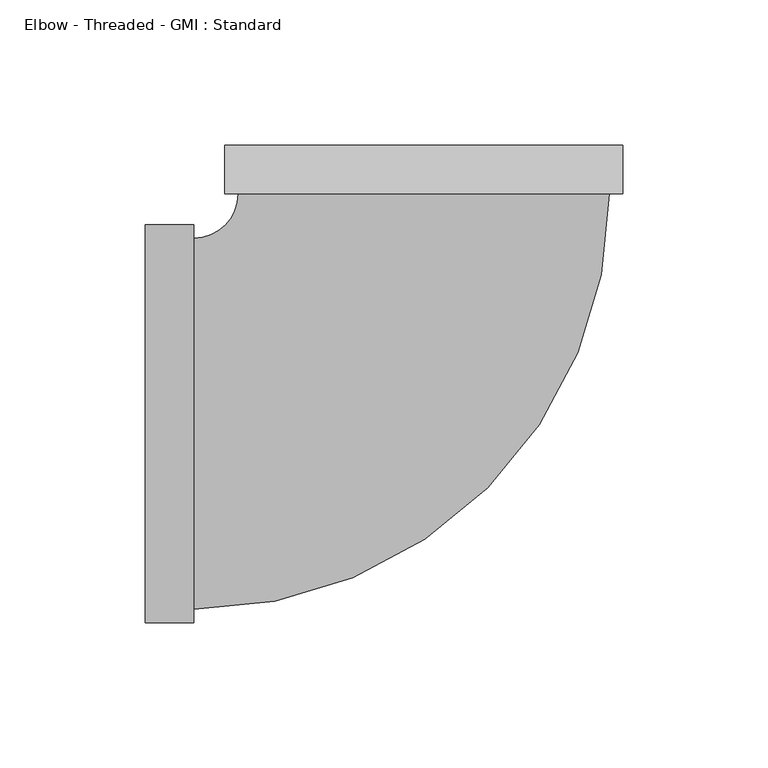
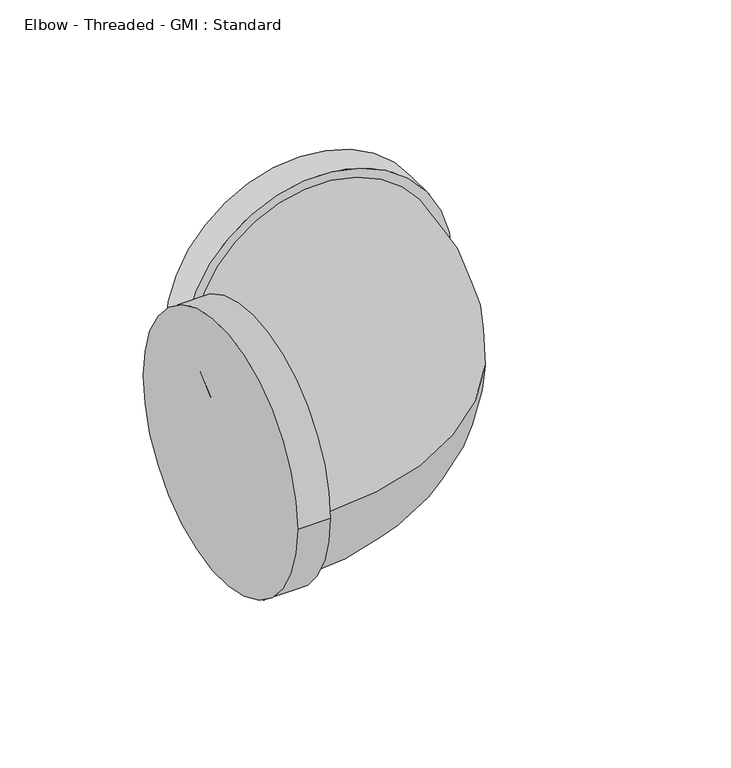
"""IFC4 building model written with IfcOpenShell, lengths in millimetres: pipe fitting geometry, Elbow - Threaded - GMI : Standard."""

from ifc_helpers import new_model, si_unit, point, frame, origin, place, context, project, spatial, circle_curve, ellipse_curve, trimmed, source, transform, mapped, element, save
from ifc_brep_helpers import plane_surface, cylinder_surface, revolved_surface, advanced_brep


def elbow_threaded_gmi_standard_bd845945(model_context):
    return source(origin(), model_context, "Body", "AdvancedBrep", [
        advanced_brep(
        [(-96.0, -68.6, 0.0), (-96.0, 68.6, 0.0), (-79.2, -68.6, 0.0), (-79.2, 68.6, 0.0), (-79.2, -63.93, 0.0), (-79.2, 63.93, 0.0), (68.6, 79.2, 0.0), (-68.6, 79.2, 0.0), (-63.93, 79.2, 0.0), (63.93, 79.2, 0.0), (68.6, 96.0, 0.0), (-68.6, 96.0, 0.0)],
        [
            (0, 1, circle_curve(frame((-96.0, 0.0, 0.0), z_axis=(-1.0, 0.0, 0.0), x_axis=(0.0, 1.0, 0.0)), 68.6)),
            (1, 0, circle_curve(frame((-96.0, 0.0, 0.0), z_axis=(-1.0, 0.0, 0.0), x_axis=(0.0, 1.0, 0.0)), 68.6)),
            (2, 3, circle_curve(frame((-79.2, 0.0, 0.0), z_axis=(1.0, 0.0, 0.0), x_axis=(0.0, 1.0, 0.0)), 68.6)),
            (3, 2, circle_curve(frame((-79.2, 0.0, 0.0), z_axis=(1.0, 0.0, 0.0), x_axis=(0.0, 1.0, 0.0)), 68.6)),
            (4, 5, circle_curve(frame((-79.2, 0.0, 0.0), z_axis=(-1.0, 0.0, 0.0), x_axis=(0.0, 1.0, 0.0)), 63.93)),
            (5, 4, circle_curve(frame((-79.2, 0.0, 0.0), z_axis=(-1.0, 0.0, 0.0), x_axis=(0.0, 1.0, 0.0)), 63.93)),
            (0, 2),
            (3, 1),
            (6, 7, circle_curve(frame((0.0, 79.2, 0.0), z_axis=(0.0, -1.0, 0.0), x_axis=(-1.0, 0.0, 0.0)), 68.6)),
            (7, 6, circle_curve(frame((0.0, 79.2, 0.0), z_axis=(0.0, -1.0, 0.0), x_axis=(-1.0, 0.0, 0.0)), 68.6)),
            (8, 9, circle_curve(frame((0.0, 79.2, 0.0), z_axis=(0.0, 1.0, 0.0), x_axis=(-1.0, 0.0, 0.0)), 63.93)),
            (9, 8, circle_curve(frame((0.0, 79.2, 0.0), z_axis=(0.0, 1.0, 0.0), x_axis=(-1.0, 0.0, 0.0)), 63.93)),
            (10, 11, circle_curve(frame((0.0, 96.0, 0.0), z_axis=(0.0, 1.0, 0.0), x_axis=(-1.0, 0.0, 0.0)), 68.6)),
            (11, 10, circle_curve(frame((0.0, 96.0, 0.0), z_axis=(0.0, 1.0, 0.0), x_axis=(-1.0, 0.0, 0.0)), 68.6)),
            (6, 10),
            (11, 7),
            (8, 5, circle_curve(frame((-79.2, 79.2, 0.0), z_axis=(0.0, 0.0, -1.0), x_axis=(0.0, -1.0, 0.0)), 15.27)),
            (4, 9, circle_curve(frame((-79.2, 79.2, 0.0), z_axis=(0.0, 0.0, 1.0), x_axis=(0.0, -1.0, 0.0)), 143.13)),
        ],
        [
            plane_surface(frame((-96.0, 0.0, 0.0), z_axis=(-1.0, 0.0, 0.0), x_axis=(0.0, 0.0, 1.0))),
            plane_surface(frame((-79.2, 0.0, 0.0), z_axis=(1.0, 0.0, 0.0), x_axis=(0.0, 0.0, 1.0))),
            cylinder_surface(frame((-96.0, 0.0, 0.0), z_axis=(-1.0, 0.0, 0.0), x_axis=(0.0, 1.0, 0.0)), 68.6),
            plane_surface(frame((0.0, 79.2, 0.0), z_axis=(0.0, -1.0, 0.0), x_axis=(0.0, 0.0, 1.0))),
            plane_surface(frame((0.0, 96.0, 0.0), z_axis=(0.0, 1.0, 0.0), x_axis=(0.0, 0.0, 1.0))),
            cylinder_surface(frame((0.0, 79.2, 0.0), z_axis=(0.0, -1.0, 0.0), x_axis=(-1.0, 0.0, 0.0)), 68.6),
            revolved_surface(trimmed(ellipse_curve(frame((-79.2, 0.0, 0.0), z_axis=(-1.0, 0.0, 0.0), x_axis=(0.0, 1.0, 0.0)), 63.93, 63.93), [point((-79.2, -63.93, 0.0))], [point((-79.2, 63.93, 0.0))], True, "CARTESIAN"), (-79.2, 79.2, 0.0), (0.0, 0.0, 1.0)),
            revolved_surface(trimmed(ellipse_curve(frame((-79.2, 0.0, 0.0), z_axis=(-1.0, 0.0, 0.0), x_axis=(0.0, 1.0, 0.0)), 63.93, 63.93), [point((-79.2, 63.93, 0.0))], [point((-79.2, -63.93, 0.0))], True, "CARTESIAN"), (-79.2, 79.2, 0.0), (0.0, 0.0, 1.0)),
        ],
        [
            (0, [[1, 2]]),
            (1, [[3, 4], [5, 6]]),
            (2, [[-1, 7, -4, 8]]),
            (2, [[-2, -8, -3, -7]]),
            (3, [[9, 10], [11, 12]]),
            (4, [[13, 14]]),
            (5, [[-9, 15, -14, 16]]),
            (5, [[-10, -16, -13, -15]]),
            (6, [[17, -5, 18, -11]]),
            (7, [[-17, -12, -18, -6]]),
        ],
    ),
    ])


if __name__ == "__main__":
    model = new_model("IFC4")
    model_context = context("Model", 3, world=origin())
    ifc_project = project(units=[si_unit("LENGTHUNIT", "METRE", prefix="MILLI")], contexts=[model_context])
    site = spatial("IfcSite", under=ifc_project)
    building = spatial("IfcBuilding", under=site)
    placement = place(None, origin())
    elbow_threaded_gmi_standard_shape = elbow_threaded_gmi_standard_bd845945(model_context)
    element("IfcPipeFitting", 1, ObjectType="Elbow - Threaded - GMI : Standard", at=placement, inside=building, context=model_context, shape_type="MappedRepresentation", body=[
        mapped(elbow_threaded_gmi_standard_shape, transform((0.0, 0.0, 0.0), x_axis=(1.0, 0.0, 0.0), y_axis=(0.0, 1.0, 0.0), z_axis=(0.0, 0.0, 1.0))),
    ])
    save(model, "model.ifc")
